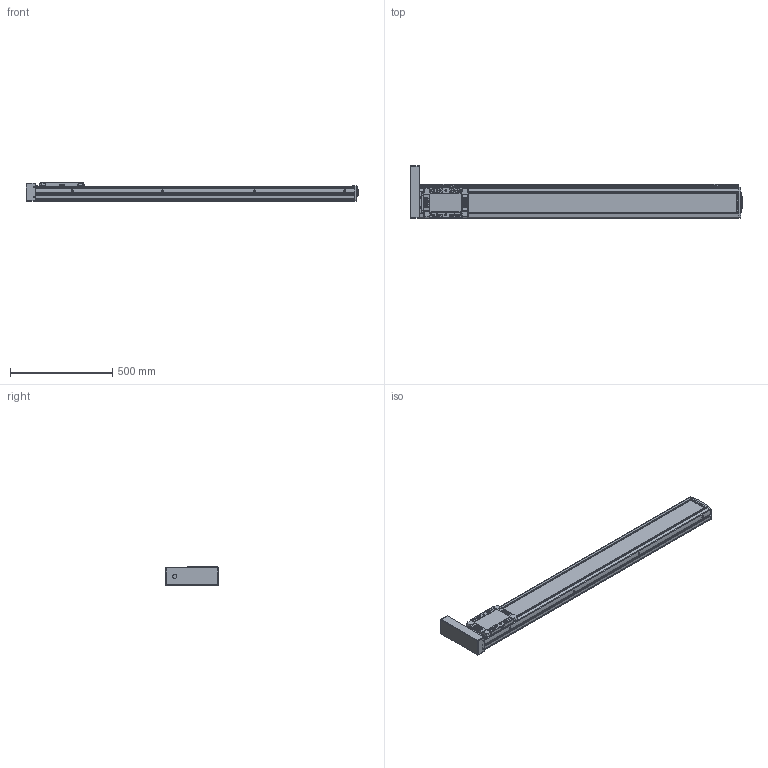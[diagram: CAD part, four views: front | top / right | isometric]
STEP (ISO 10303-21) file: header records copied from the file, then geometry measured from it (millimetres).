
FILE_DESCRIPTION(('STEP AP214'),'1');
FILE_NAME('Z:/Web/3D/SAN150/2013.04 (STP.)/SAN150ㅁㅁ-1300PL+3SL.stp','2013-05-07T08:36:07',(' '),(' '),'Spatial InterOp 3D',' ',' ');
FILE_SCHEMA(('automotive_design'));
Length unit declared in the file: millimetre
Products named in the file (62): M3.0 x 6.0; SRL-16x17-360L; SGD-SAN150; EE-SX674; SBK-SX674-352; 스크루 : Round - M3.0 x 6.0; BHCS M4.0 x 10.0; BHCS M3.0 x 6.0; P; SLBL-SAN150; SLCV-SAN150; FHCS M4.0 x 8.0; SFX-SAN150; RRCV-SAN150; FRBL-SAN150; Spacer; RN15; FRCV-SAN150; Screw 20; BASE-SAN150-000L ; SUS COVER; 스크루 : Round - M5.0 x 6.0
Bounding box: 1620 x 260.73 x 90 mm (x, y, z)
Volume: 9287700.4 mm3; surface area: 1769224.9 mm2
Topology: 62 solids, 62 shells, 2886 faces, 7413 edges, 4742 vertices
Faces by surface type: plane 1452, cylinder 967, cone 346, sphere 88, bspline 21, torus 12
Entity records: 114638 total; most frequent: CARTESIAN_POINT 18677, DIRECTION 15728, ORIENTED_EDGE 14530, EDGE_CURVE 7265, AXIS2_PLACEMENT_3D 5660, VERTEX_POINT 4742, LINE 4408, VECTOR 4408
